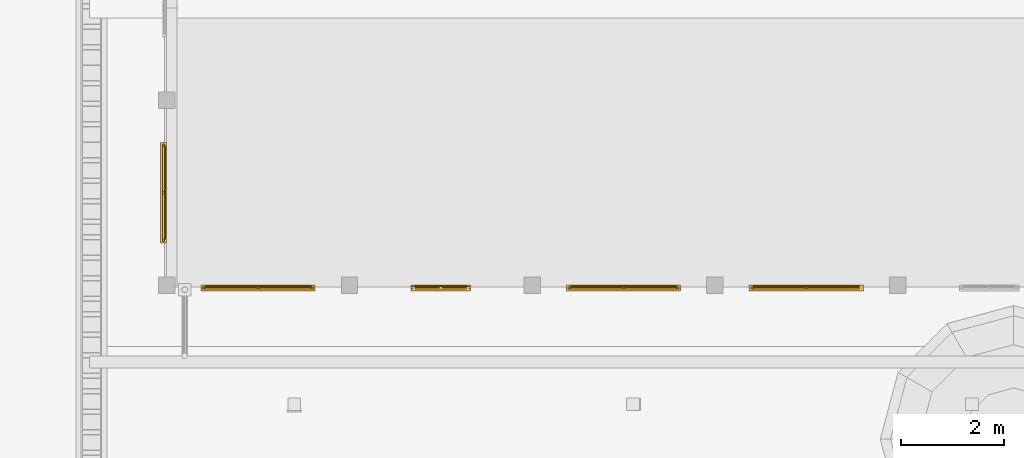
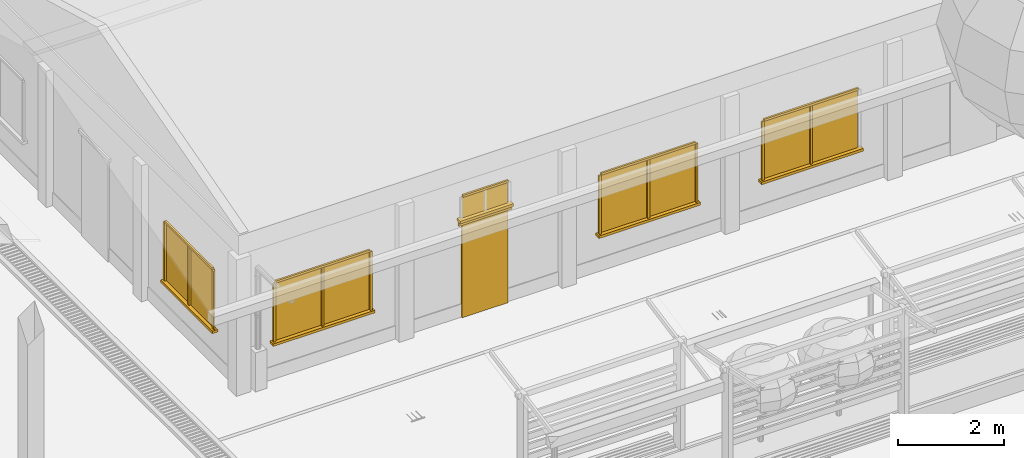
# One storey, part 59 of 166: 26 windows, 2 doors.
"""IFC2X3 building model written with IfcOpenShell, lengths in metres."""

from ifc_helpers import new_model, si_unit, origin, origin_with_axes, place, context, subcontext, project, spatial, faceted_brep, element, save


model = new_model("IFC2X3")

# Units and contexts
model_context = context("Model", 3, precision=1e-05, world=origin_with_axes())
body_context = subcontext(model_context, "Body", "Model", "MODEL_VIEW")
ifc_project = project(units=[si_unit("LENGTHUNIT", "METRE"), si_unit("AREAUNIT", "SQUARE_METRE"), si_unit("VOLUMEUNIT", "CUBIC_METRE"), si_unit("PLANEANGLEUNIT", "RADIAN")], contexts=[model_context])

# Site, building, storey
site_placement = place(None, origin_with_axes())
site = spatial("IfcSite", under=ifc_project, at=site_placement, Name="Predio Los Mangos - Morales, San Martín", CompositionType="ELEMENT")
building_placement = place(site_placement, origin())
building = spatial("IfcBuilding", under=site, at=building_placement, Name="Hogar de Refugio Temporal", CompositionType="ELEMENT")
storey_placement = place(building_placement, origin())
storey = spatial("IfcBuildingStorey", under=building, at=storey_placement, Name="NIVEL 1 (NPT +0.00)", CompositionType="ELEMENT", Elevation=0.0)

# Windows
window_1_placement = place(storey_placement, origin())
element("IfcWindow", 1, at=window_1_placement, inside=storey, Name="E-08_v0_vid", ObjectType="Ventana", context=body_context, shape_type="Brep", body=[
    faceted_brep([(32.7476, 116.96, 1.05), (32.7476, 116.98, 1.05), (34.8124, 116.98, 1.05), (34.8124, 116.96, 1.05), (32.7476, 116.96, 2.4), (34.8124, 116.96, 2.4), (34.8124, 116.98, 2.4), (32.7476, 116.98, 2.4)], [[[0, 1, 2, 3]], [[4, 5, 6, 7]], [[0, 3, 5, 4]], [[3, 2, 6, 5]], [[2, 1, 7, 6]], [[1, 0, 4, 7]]]),
])
window_2_placement = place(storey_placement, origin())
element("IfcWindow", 2, at=window_2_placement, inside=storey, Name="E-08_v0_m", ObjectType="Ventana", context=body_context, shape_type="Brep", body=[
    faceted_brep([(32.6976, 116.92, 1.05), (32.6976, 116.96, 1.05), (32.7476, 116.96, 1.05), (32.7476, 116.92, 1.05), (32.6976, 116.92, 2.4), (32.7476, 116.92, 2.4), (32.7476, 116.96, 2.4), (32.6976, 116.96, 2.4)], [[[0, 1, 2, 3]], [[4, 5, 6, 7]], [[0, 3, 5, 4]], [[3, 2, 6, 5]], [[2, 1, 7, 6]], [[1, 0, 4, 7]]]),
])
window_3_placement = place(storey_placement, origin())
element("IfcWindow", 3, at=window_3_placement, inside=storey, Name="E-08_v0_m", ObjectType="Ventana", context=body_context, shape_type="Brep", body=[
    faceted_brep([(34.8124, 116.92, 1.05), (34.8124, 116.96, 1.05), (34.8624, 116.96, 1.05), (34.8624, 116.92, 1.05), (34.8124, 116.92, 2.4), (34.8624, 116.92, 2.4), (34.8624, 116.96, 2.4), (34.8124, 116.96, 2.4)], [[[0, 1, 2, 3]], [[4, 5, 6, 7]], [[0, 3, 5, 4]], [[3, 2, 6, 5]], [[2, 1, 7, 6]], [[1, 0, 4, 7]]]),
])
window_4_placement = place(storey_placement, origin())
element("IfcWindow", 4, at=window_4_placement, inside=storey, Name="E-08_v0_m", ObjectType="Ventana", context=body_context, shape_type="Brep", body=[
    faceted_brep([(32.7476, 116.92, 2.4), (32.7476, 116.96, 2.4), (34.8124, 116.96, 2.4), (34.8124, 116.92, 2.4), (32.7476, 116.92, 2.45), (34.8124, 116.92, 2.45), (34.8124, 116.96, 2.45), (32.7476, 116.96, 2.45)], [[[0, 1, 2, 3]], [[4, 5, 6, 7]], [[0, 3, 5, 4]], [[3, 2, 6, 5]], [[2, 1, 7, 6]], [[1, 0, 4, 7]]]),
])
window_5_placement = place(storey_placement, origin())
element("IfcWindow", 5, at=window_5_placement, inside=storey, Name="E-08_v0_m", ObjectType="Ventana", context=body_context, shape_type="Brep", body=[
    faceted_brep([(33.755, 116.92, 1.05), (33.755, 116.96, 1.05), (33.805, 116.96, 1.05), (33.805, 116.92, 1.05), (33.755, 116.92, 2.4), (33.805, 116.92, 2.4), (33.805, 116.96, 2.4), (33.755, 116.96, 2.4)], [[[0, 1, 2, 3]], [[4, 5, 6, 7]], [[0, 3, 5, 4]], [[3, 2, 6, 5]], [[2, 1, 7, 6]], [[1, 0, 4, 7]]]),
])
window_6_placement = place(storey_placement, origin())
element("IfcWindow", 6, at=window_6_placement, inside=storey, Name="E-08_v0_alf", ObjectType="Ventana", context=body_context, shape_type="Brep", body=[
    faceted_brep([(32.6676, 117.0, 0.99), (32.6676, 116.88, 0.99), (34.8924, 116.88, 0.99), (34.8924, 117.0, 0.99), (32.6676, 117.0, 1.05), (34.8924, 117.0, 1.05), (34.8924, 116.88, 1.05), (32.6676, 116.88, 1.05)], [[[0, 1, 2, 3]], [[4, 5, 6, 7]], [[0, 3, 5, 4]], [[3, 2, 6, 5]], [[2, 1, 7, 6]], [[1, 0, 4, 7]]]),
])

# Doors
door_1_placement = place(storey_placement, origin())
element("IfcDoor", 7, at=door_1_placement, inside=storey, Name="E-08_p1", ObjectType="Puerta", context=body_context, shape_type="Brep", body=[
    faceted_brep([(36.84, 116.95, 0.15), (36.84, 116.99, 0.15), (37.84, 116.99, 0.15), (37.84, 116.95, 0.15), (36.84, 116.95, 2.3), (37.84, 116.95, 2.3), (37.84, 116.99, 2.3), (36.84, 116.99, 2.3)], [[[0, 1, 2, 3]], [[4, 5, 6, 7]], [[0, 3, 5, 4]], [[3, 2, 6, 5]], [[2, 1, 7, 6]], [[1, 0, 4, 7]]]),
])
door_2_placement = place(storey_placement, origin())
element("IfcDoor", 8, at=door_2_placement, inside=storey, Name="E-08_p1_marco", ObjectType="Puerta", context=body_context, shape_type="Brep", body=[
    faceted_brep([(36.76, 116.93, 2.3), (36.76, 116.97, 2.3), (37.92, 116.97, 2.3), (37.92, 116.93, 2.3), (36.76, 116.93, 2.38), (37.92, 116.93, 2.38), (37.92, 116.97, 2.38), (36.76, 116.97, 2.38)], [[[0, 1, 2, 3]], [[4, 5, 6, 7]], [[0, 3, 5, 4]], [[3, 2, 6, 5]], [[2, 1, 7, 6]], [[1, 0, 4, 7]]]),
])

# Windows
window_7_placement = place(storey_placement, origin())
element("IfcWindow", 9, at=window_7_placement, inside=storey, Name="E-08_vt1_vid", ObjectType="Ventana", context=body_context, shape_type="Brep", body=[
    faceted_brep([(36.84, 116.96, 2.45), (36.84, 116.98, 2.45), (37.84, 116.98, 2.45), (37.84, 116.96, 2.45), (36.84, 116.96, 2.95), (37.84, 116.96, 2.95), (37.84, 116.98, 2.95), (36.84, 116.98, 2.95)], [[[0, 1, 2, 3]], [[4, 5, 6, 7]], [[0, 3, 5, 4]], [[3, 2, 6, 5]], [[2, 1, 7, 6]], [[1, 0, 4, 7]]]),
])
window_8_placement = place(storey_placement, origin())
element("IfcWindow", 10, at=window_8_placement, inside=storey, Name="E-08_vt1_m", ObjectType="Ventana", context=body_context, shape_type="Brep", body=[
    faceted_brep([(36.84, 116.92, 2.95), (36.84, 116.96, 2.95), (37.84, 116.96, 2.95), (37.84, 116.92, 2.95), (36.84, 116.92, 3.0), (37.84, 116.92, 3.0), (37.84, 116.96, 3.0), (36.84, 116.96, 3.0)], [[[0, 1, 2, 3]], [[4, 5, 6, 7]], [[0, 3, 5, 4]], [[3, 2, 6, 5]], [[2, 1, 7, 6]], [[1, 0, 4, 7]]]),
])
window_9_placement = place(storey_placement, origin())
element("IfcWindow", 11, at=window_9_placement, inside=storey, Name="E-08_vt1_alf", ObjectType="Ventana", context=body_context, shape_type="Brep", body=[
    faceted_brep([(36.76, 117.0, 2.39), (36.76, 116.88, 2.39), (37.92, 116.88, 2.39), (37.92, 117.0, 2.39), (36.76, 117.0, 2.45), (37.92, 117.0, 2.45), (37.92, 116.88, 2.45), (36.76, 116.88, 2.45)], [[[0, 1, 2, 3]], [[4, 5, 6, 7]], [[0, 3, 5, 4]], [[3, 2, 6, 5]], [[2, 1, 7, 6]], [[1, 0, 4, 7]]]),
])
window_10_placement = place(storey_placement, origin())
element("IfcWindow", 12, at=window_10_placement, inside=storey, Name="E-08_v2_vid", ObjectType="Ventana", context=body_context, shape_type="Brep", body=[
    faceted_brep([(39.8676, 116.96, 1.05), (39.8676, 116.98, 1.05), (41.9324, 116.98, 1.05), (41.9324, 116.96, 1.05), (39.8676, 116.96, 2.4), (41.9324, 116.96, 2.4), (41.9324, 116.98, 2.4), (39.8676, 116.98, 2.4)], [[[0, 1, 2, 3]], [[4, 5, 6, 7]], [[0, 3, 5, 4]], [[3, 2, 6, 5]], [[2, 1, 7, 6]], [[1, 0, 4, 7]]]),
])
window_11_placement = place(storey_placement, origin())
element("IfcWindow", 13, at=window_11_placement, inside=storey, Name="E-08_v2_m", ObjectType="Ventana", context=body_context, shape_type="Brep", body=[
    faceted_brep([(39.8176, 116.92, 1.05), (39.8176, 116.96, 1.05), (39.8676, 116.96, 1.05), (39.8676, 116.92, 1.05), (39.8176, 116.92, 2.4), (39.8676, 116.92, 2.4), (39.8676, 116.96, 2.4), (39.8176, 116.96, 2.4)], [[[0, 1, 2, 3]], [[4, 5, 6, 7]], [[0, 3, 5, 4]], [[3, 2, 6, 5]], [[2, 1, 7, 6]], [[1, 0, 4, 7]]]),
])
window_12_placement = place(storey_placement, origin())
element("IfcWindow", 14, at=window_12_placement, inside=storey, Name="E-08_v2_m", ObjectType="Ventana", context=body_context, shape_type="Brep", body=[
    faceted_brep([(41.9324, 116.92, 1.05), (41.9324, 116.96, 1.05), (41.9824, 116.96, 1.05), (41.9824, 116.92, 1.05), (41.9324, 116.92, 2.4), (41.9824, 116.92, 2.4), (41.9824, 116.96, 2.4), (41.9324, 116.96, 2.4)], [[[0, 1, 2, 3]], [[4, 5, 6, 7]], [[0, 3, 5, 4]], [[3, 2, 6, 5]], [[2, 1, 7, 6]], [[1, 0, 4, 7]]]),
])
window_13_placement = place(storey_placement, origin())
element("IfcWindow", 15, at=window_13_placement, inside=storey, Name="E-08_v2_m", ObjectType="Ventana", context=body_context, shape_type="Brep", body=[
    faceted_brep([(39.8676, 116.92, 2.4), (39.8676, 116.96, 2.4), (41.9324, 116.96, 2.4), (41.9324, 116.92, 2.4), (39.8676, 116.92, 2.45), (41.9324, 116.92, 2.45), (41.9324, 116.96, 2.45), (39.8676, 116.96, 2.45)], [[[0, 1, 2, 3]], [[4, 5, 6, 7]], [[0, 3, 5, 4]], [[3, 2, 6, 5]], [[2, 1, 7, 6]], [[1, 0, 4, 7]]]),
])
window_14_placement = place(storey_placement, origin())
element("IfcWindow", 16, at=window_14_placement, inside=storey, Name="E-08_v2_m", ObjectType="Ventana", context=body_context, shape_type="Brep", body=[
    faceted_brep([(40.875, 116.92, 1.05), (40.875, 116.96, 1.05), (40.925, 116.96, 1.05), (40.925, 116.92, 1.05), (40.875, 116.92, 2.4), (40.925, 116.92, 2.4), (40.925, 116.96, 2.4), (40.875, 116.96, 2.4)], [[[0, 1, 2, 3]], [[4, 5, 6, 7]], [[0, 3, 5, 4]], [[3, 2, 6, 5]], [[2, 1, 7, 6]], [[1, 0, 4, 7]]]),
])
window_15_placement = place(storey_placement, origin())
element("IfcWindow", 17, at=window_15_placement, inside=storey, Name="E-08_v2_alf", ObjectType="Ventana", context=body_context, shape_type="Brep", body=[
    faceted_brep([(39.7876, 117.0, 0.99), (39.7876, 116.88, 0.99), (42.0124, 116.88, 0.99), (42.0124, 117.0, 0.99), (39.7876, 117.0, 1.05), (42.0124, 117.0, 1.05), (42.0124, 116.88, 1.05), (39.7876, 116.88, 1.05)], [[[0, 1, 2, 3]], [[4, 5, 6, 7]], [[0, 3, 5, 4]], [[3, 2, 6, 5]], [[2, 1, 7, 6]], [[1, 0, 4, 7]]]),
])
window_16_placement = place(storey_placement, origin())
element("IfcWindow", 18, at=window_16_placement, inside=storey, Name="E-08_v3_vid", ObjectType="Ventana", context=body_context, shape_type="Brep", body=[
    faceted_brep([(43.4276, 116.96, 1.05), (43.4276, 116.98, 1.05), (45.4924, 116.98, 1.05), (45.4924, 116.96, 1.05), (43.4276, 116.96, 2.4), (45.4924, 116.96, 2.4), (45.4924, 116.98, 2.4), (43.4276, 116.98, 2.4)], [[[0, 1, 2, 3]], [[4, 5, 6, 7]], [[0, 3, 5, 4]], [[3, 2, 6, 5]], [[2, 1, 7, 6]], [[1, 0, 4, 7]]]),
])
window_17_placement = place(storey_placement, origin())
element("IfcWindow", 19, at=window_17_placement, inside=storey, Name="E-08_v3_m", ObjectType="Ventana", context=body_context, shape_type="Brep", body=[
    faceted_brep([(43.3776, 116.92, 1.05), (43.3776, 116.96, 1.05), (43.4276, 116.96, 1.05), (43.4276, 116.92, 1.05), (43.3776, 116.92, 2.4), (43.4276, 116.92, 2.4), (43.4276, 116.96, 2.4), (43.3776, 116.96, 2.4)], [[[0, 1, 2, 3]], [[4, 5, 6, 7]], [[0, 3, 5, 4]], [[3, 2, 6, 5]], [[2, 1, 7, 6]], [[1, 0, 4, 7]]]),
])
window_18_placement = place(storey_placement, origin())
element("IfcWindow", 20, at=window_18_placement, inside=storey, Name="E-08_v3_m", ObjectType="Ventana", context=body_context, shape_type="Brep", body=[
    faceted_brep([(43.4276, 116.92, 2.4), (43.4276, 116.96, 2.4), (45.4924, 116.96, 2.4), (45.4924, 116.92, 2.4), (43.4276, 116.92, 2.45), (45.4924, 116.92, 2.45), (45.4924, 116.96, 2.45), (43.4276, 116.96, 2.45)], [[[0, 1, 2, 3]], [[4, 5, 6, 7]], [[0, 3, 5, 4]], [[3, 2, 6, 5]], [[2, 1, 7, 6]], [[1, 0, 4, 7]]]),
])
window_19_placement = place(storey_placement, origin())
element("IfcWindow", 21, at=window_19_placement, inside=storey, Name="E-08_v3_m", ObjectType="Ventana", context=body_context, shape_type="Brep", body=[
    faceted_brep([(44.435, 116.92, 1.05), (44.435, 116.96, 1.05), (44.485, 116.96, 1.05), (44.485, 116.92, 1.05), (44.435, 116.92, 2.4), (44.485, 116.92, 2.4), (44.485, 116.96, 2.4), (44.435, 116.96, 2.4)], [[[0, 1, 2, 3]], [[4, 5, 6, 7]], [[0, 3, 5, 4]], [[3, 2, 6, 5]], [[2, 1, 7, 6]], [[1, 0, 4, 7]]]),
])
window_20_placement = place(storey_placement, origin())
element("IfcWindow", 22, at=window_20_placement, inside=storey, Name="E-08_v3_alf", ObjectType="Ventana", context=body_context, shape_type="Brep", body=[
    faceted_brep([(43.3476, 117.0, 0.99), (43.3476, 116.88, 0.99), (45.5724, 116.88, 0.99), (45.5724, 117.0, 0.99), (43.3476, 117.0, 1.05), (45.5724, 117.0, 1.05), (45.5724, 116.88, 1.05), (43.3476, 116.88, 1.05)], [[[0, 1, 2, 3]], [[4, 5, 6, 7]], [[0, 3, 5, 4]], [[3, 2, 6, 5]], [[2, 1, 7, 6]], [[1, 0, 4, 7]]]),
])
window_21_placement = place(storey_placement, origin())
element("IfcWindow", 23, at=window_21_placement, inside=storey, Name="E-08_vg0_vid", ObjectType="Ventana", context=body_context, shape_type="Brep", body=[
    faceted_brep([(31.96, 117.9, 1.05), (31.96, 119.7, 1.05), (31.98, 119.7, 1.05), (31.98, 117.9, 1.05), (31.96, 117.9, 2.4), (31.98, 117.9, 2.4), (31.98, 119.7, 2.4), (31.96, 119.7, 2.4)], [[[0, 1, 2, 3]], [[4, 5, 6, 7]], [[0, 3, 5, 4]], [[3, 2, 6, 5]], [[2, 1, 7, 6]], [[1, 0, 4, 7]]]),
])
window_22_placement = place(storey_placement, origin())
element("IfcWindow", 24, at=window_22_placement, inside=storey, Name="E-08_vg0_m", ObjectType="Ventana", context=body_context, shape_type="Brep", body=[
    faceted_brep([(31.92, 117.85, 1.05), (31.92, 117.9, 1.05), (31.96, 117.9, 1.05), (31.96, 117.85, 1.05), (31.92, 117.85, 2.4), (31.96, 117.85, 2.4), (31.96, 117.9, 2.4), (31.92, 117.9, 2.4)], [[[0, 1, 2, 3]], [[4, 5, 6, 7]], [[0, 3, 5, 4]], [[3, 2, 6, 5]], [[2, 1, 7, 6]], [[1, 0, 4, 7]]]),
])
window_23_placement = place(storey_placement, origin())
element("IfcWindow", 25, at=window_23_placement, inside=storey, Name="E-08_vg0_m", ObjectType="Ventana", context=body_context, shape_type="Brep", body=[
    faceted_brep([(31.92, 119.7, 1.05), (31.92, 119.75, 1.05), (31.96, 119.75, 1.05), (31.96, 119.7, 1.05), (31.92, 119.7, 2.4), (31.96, 119.7, 2.4), (31.96, 119.75, 2.4), (31.92, 119.75, 2.4)], [[[0, 1, 2, 3]], [[4, 5, 6, 7]], [[0, 3, 5, 4]], [[3, 2, 6, 5]], [[2, 1, 7, 6]], [[1, 0, 4, 7]]]),
])
window_24_placement = place(storey_placement, origin())
element("IfcWindow", 26, at=window_24_placement, inside=storey, Name="E-08_vg0_m", ObjectType="Ventana", context=body_context, shape_type="Brep", body=[
    faceted_brep([(31.92, 117.9, 2.4), (31.92, 119.7, 2.4), (31.96, 119.7, 2.4), (31.96, 117.9, 2.4), (31.92, 117.9, 2.45), (31.96, 117.9, 2.45), (31.96, 119.7, 2.45), (31.92, 119.7, 2.45)], [[[0, 1, 2, 3]], [[4, 5, 6, 7]], [[0, 3, 5, 4]], [[3, 2, 6, 5]], [[2, 1, 7, 6]], [[1, 0, 4, 7]]]),
])
window_25_placement = place(storey_placement, origin())
element("IfcWindow", 27, at=window_25_placement, inside=storey, Name="E-08_vg0_m", ObjectType="Ventana", context=body_context, shape_type="Brep", body=[
    faceted_brep([(31.92, 118.775, 1.05), (31.92, 118.825, 1.05), (31.96, 118.825, 1.05), (31.96, 118.775, 1.05), (31.92, 118.775, 2.4), (31.96, 118.775, 2.4), (31.96, 118.825, 2.4), (31.92, 118.825, 2.4)], [[[0, 1, 2, 3]], [[4, 5, 6, 7]], [[0, 3, 5, 4]], [[3, 2, 6, 5]], [[2, 1, 7, 6]], [[1, 0, 4, 7]]]),
])
window_26_placement = place(storey_placement, origin())
element("IfcWindow", 28, at=window_26_placement, inside=storey, Name="E-08_vg0_alf", ObjectType="Ventana", context=body_context, shape_type="Brep", body=[
    faceted_brep([(32.0, 117.82, 0.99), (32.0, 119.78, 0.99), (31.88, 119.78, 0.99), (31.88, 117.82, 0.99), (32.0, 117.82, 1.05), (31.88, 117.82, 1.05), (31.88, 119.78, 1.05), (32.0, 119.78, 1.05)], [[[0, 1, 2, 3]], [[4, 5, 6, 7]], [[0, 3, 5, 4]], [[3, 2, 6, 5]], [[2, 1, 7, 6]], [[1, 0, 4, 7]]]),
])

save(model, "model.ifc")
